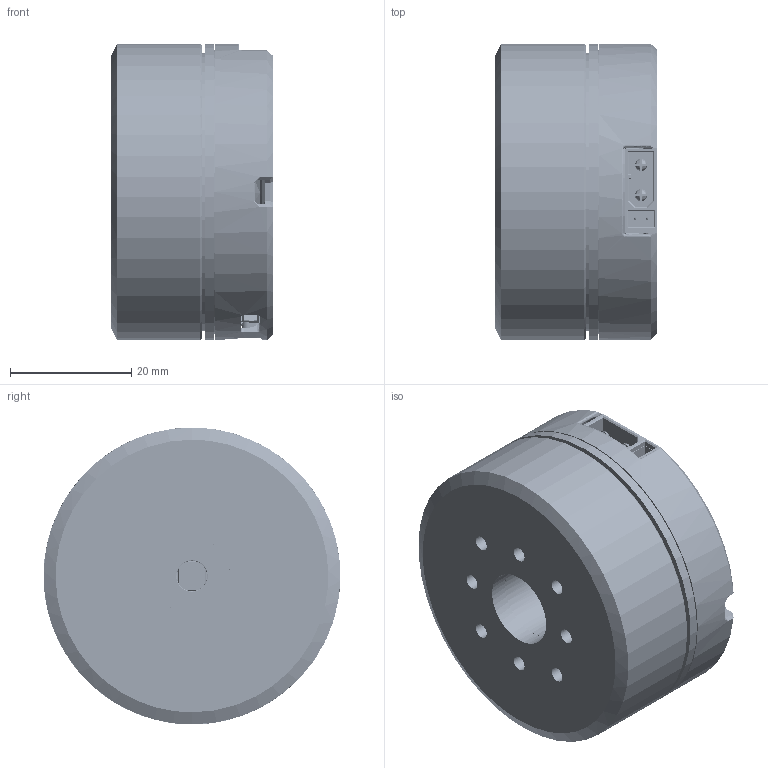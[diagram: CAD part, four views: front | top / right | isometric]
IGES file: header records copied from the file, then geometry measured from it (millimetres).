
Global section: file name: QD4310_V6.0; native system: unknown; preprocessor: unknown; author: unknown; organization: unknown; date: 20260126.203410; units: millimetre
Bounding box: 26.67 x 48.99 x 49 mm (x, y, z)
Volume: 35446.7 mm3; surface area: 27011.5 mm2
Topology: 456 solids, 480 shells, 36536 faces, 95602 edges, 62725 vertices
Faces by surface type: bspline 36536
